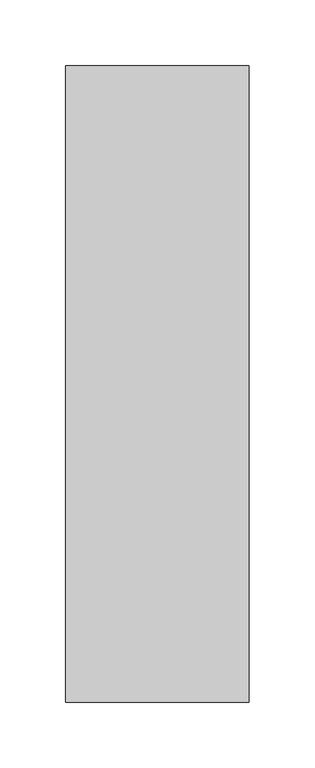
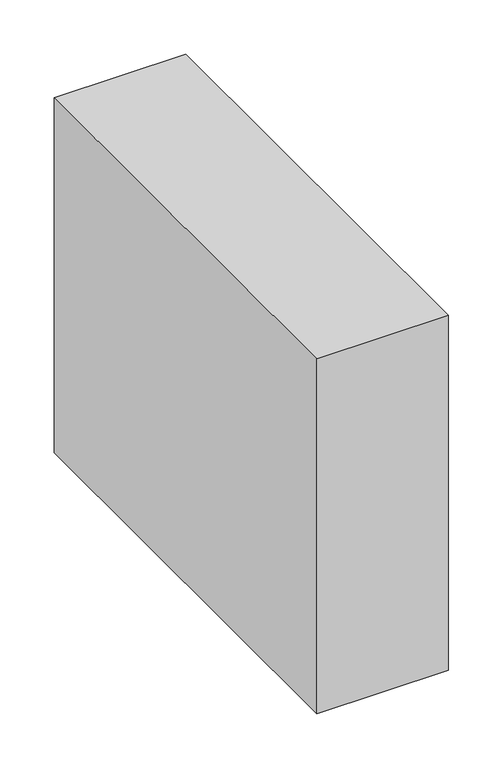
"""IFC4 building model written with IfcOpenShell, lengths in millimetres: proxy geometry."""

from ifc_helpers import new_model, si_unit, frame, origin, place, context, project, spatial, polyline, outline, extrude, source, transform, mapped, element, save


def structural_framing_ee55f742(model_context):
    return source(origin(), model_context, "Body", "SweptSolid", [
        extrude(outline(polyline([(-70.0, 242.5), (70.0, 242.5), (70.0, -242.5), (-70.0, -242.5), (-70.0, 242.5)])), frame((0.0, 0.0, -400.0), z_axis=(0.0, 0.0, 1.0), x_axis=(1.0, 0.0, 0.0)), (0.0, 0.0, 1.0), 400.0),
    ])


if __name__ == "__main__":
    model = new_model("IFC4")
    model_context = context("Model", 3, world=origin())
    ifc_project = project(units=[si_unit("LENGTHUNIT", "METRE", prefix="MILLI")], contexts=[model_context])
    site = spatial("IfcSite", under=ifc_project)
    building = spatial("IfcBuilding", under=site)
    placement = place(None, origin())
    structural_framing_shape = structural_framing_ee55f742(model_context)
    element("IfcBuildingElementProxy", 1, Name="Structural Framing", at=placement, inside=building, context=model_context, shape_type="MappedRepresentation", body=[
        mapped(structural_framing_shape, transform((0.0, 0.0, 0.0), x_axis=(1.0, 0.0, 0.0), y_axis=(0.0, 1.0, 0.0), z_axis=(0.0, 0.0, 1.0))),
    ])
    save(model, "model.ifc")
